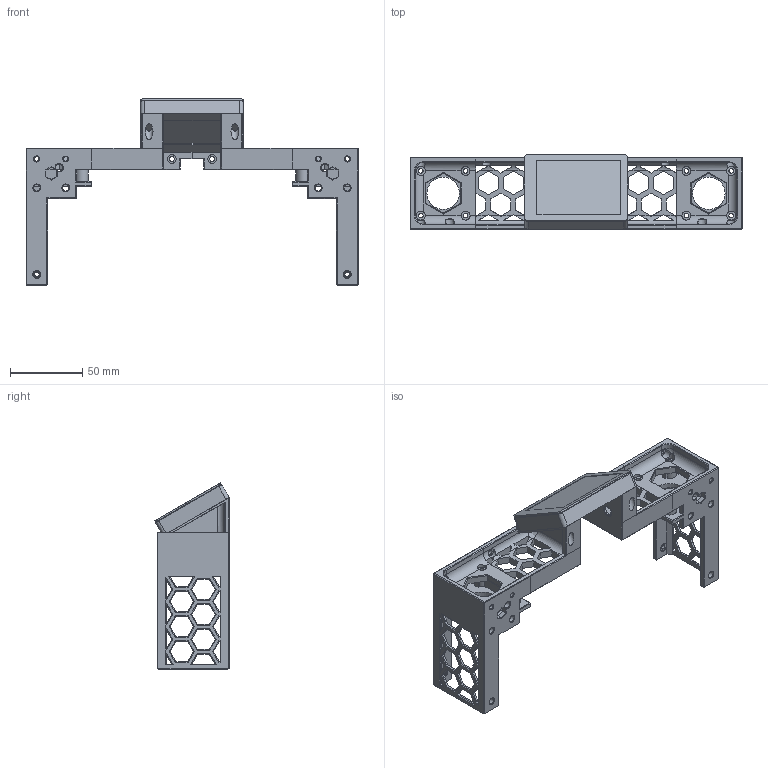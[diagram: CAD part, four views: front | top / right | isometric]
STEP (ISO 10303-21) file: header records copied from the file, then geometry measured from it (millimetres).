
FILE_DESCRIPTION(/* description */ (''),/* implementation_level */ '2;1');
FILE_NAME(/* name */ 'tri-zero_skirts.step',/* time_stamp */ '2022-11-24T14:00:21+01:00',/* author */ (''),/* organization */ (''),/* preprocessor_version */ 'ST-DEVELOPER v19.2',/* originating_system */ 'Autodesk Translation Framework v11.17.0.187',/* authorisation */ '');
FILE_SCHEMA (('AUTOMOTIVE_DESIGN { 1 0 10303 214 3 1 1 }'));
Length unit declared in the file: millimetre
Products named in the file (8): tri-zero_skirts; Waveshare 2.8; Front Corner right; Front Corner left; Waveshare 2.8inch Display Mount; Waveshare 2.8inch Display; Display Mount 2.8inch left (1); Display Mount 2.8inch right
Assembly tree (7 placements, depth 4):
  tri-zero_skirts
    Waveshare 2.8
      Front Corner right
      Front Corner left
      Waveshare 2.8inch Display Mount
        Waveshare 2.8inch Display
      Display Mount 2.8inch left (1)
      Display Mount 2.8inch right
Bounding box: 230 x 51.84 x 129.24 mm (x, y, z)
Volume: 132042.7 mm3; surface area: 103061 mm2
Topology: 13 solids, 13 shells, 1016 faces, 2705 edges, 1696 vertices
Faces by surface type: plane 841, cylinder 125, cone 30, bspline 12, sphere 8
Full cylindrical faces by diameter (mm): 2 x4, 2.8 x8, 3.2 x16, 3.4 x4, 4.6 x6, 5 x2, 5.5 x8, 6 x12, 6.2 x12, 7 x1, 22.5 x2
Entity records: 32340 total; most frequent: CARTESIAN_POINT 6361, ORIENTED_EDGE 5406, DIRECTION 5031, EDGE_CURVE 2703, LINE 2231, VECTOR 2231, VERTEX_POINT 1696, AXIS2_PLACEMENT_3D 1400
